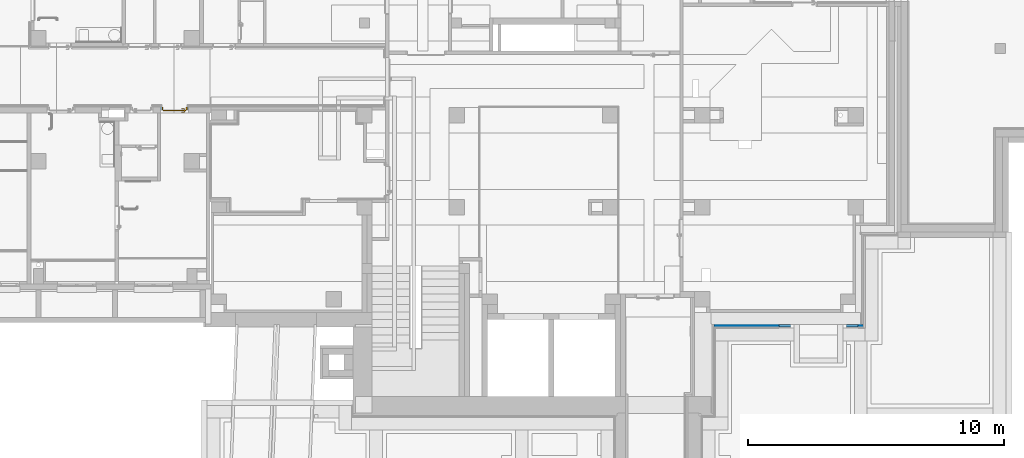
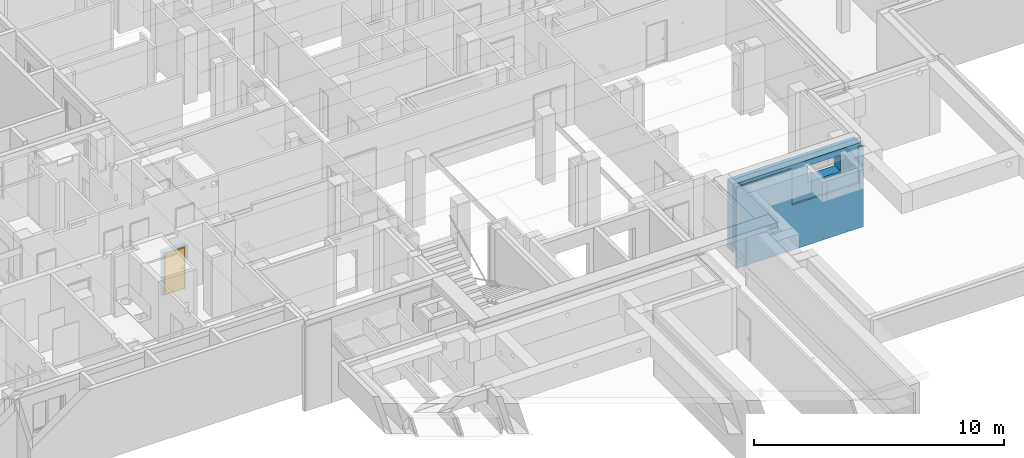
# One storey, part 57 of 84: 1 door, 1 wall, 2 openings, plus 1 element that does not belong to this part.
"""IFC4 building model written with IfcOpenShell, lengths in metres."""

from ifc_helpers import new_model, entity, si_unit, converted_unit, derived_unit, frame, frame_2d, origin, origin_with_axes, place, context, subcontext, project, spatial, polyline, rectangle, outline, extrude, closed_shell, open_shell, faceted_brep, surface_model, source, transform, mapped, material, layer, layer_set, layer_usage, type_object, element, fill, save


model = new_model("IFC4")

# Units and contexts
model_context = context("Model", 3, precision=1e-05, world=origin())
body_context = subcontext(model_context, "Body", "Model", "MODEL_VIEW")
ifc_project = project(units=[si_unit("LENGTHUNIT", "METRE"), si_unit("AREAUNIT", "SQUARE_METRE"), si_unit("VOLUMEUNIT", "CUBIC_METRE"), si_unit("MASSUNIT", "GRAM", prefix="KILO"), converted_unit("PLANEANGLEUNIT", "DEGREE", entity("IfcPlaneAngleMeasure", 0.0174532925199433), si_unit("PLANEANGLEUNIT", "RADIAN"), dimensions=[0, 0, 0, 0, 0, 0, 0]), derived_unit("THERMALTRANSMITTANCEUNIT", [(si_unit("POWERUNIT", "WATT"), 1), (si_unit("THERMODYNAMICTEMPERATUREUNIT", "KELVIN"), -1), (si_unit("LENGTHUNIT", "METRE"), -2)]), derived_unit("VOLUMETRICFLOWRATEUNIT", [(si_unit("LENGTHUNIT", "METRE"), 3), (converted_unit("TIMEUNIT", "hour", entity("IfcTimeMeasure", 3600.0), si_unit("TIMEUNIT", "SECOND"), dimensions=[0, 0, 1, 0, 0, 0, 0]), -1), (si_unit("LENGTHUNIT", "METRE"), -1)])], contexts=[model_context])

# Site, building, storey
site_placement = place(None, origin())
site = spatial("IfcSite", under=ifc_project, at=site_placement, Name="3. ASŘ", CompositionType="ELEMENT")
building_placement = place(site_placement, origin())
building = spatial("IfcBuilding", under=site, at=building_placement, Name="Pavilon C", CompositionType="ELEMENT")
storey_placement = place(building_placement, frame((0.0, 0.0, -3.3)))
storey = spatial("IfcBuildingStorey", under=building, at=storey_placement, Name="Půdorys 1.PP", CompositionType="ELEMENT", Elevation=-3.3)

# Wall, opening
ifc_material_1 = material(Name="ZELEZOBETONOVÁ KCE")
wall_1_placement = place(storey_placement, frame((44.3, -1.075, -1.15)))
wall_1 = element("IfcWall", 1, at=wall_1_placement, inside=storey, material=ifc_material_1, Name="ZELEZOBETONOVÁ KCE", context=body_context, shape_type="Brep", body=[
    faceted_brep([(0.0, 0.555, 0.750000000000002), (5.85, 0.555, 0.750000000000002), (5.85, 0.555, 4.1), (0.0, 0.555, 4.1), (5.85, 0.105, 0.750000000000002), (5.85, 0.105, 1.15), (5.85, 0.105, 4.1), (0.0, 0.105, 0.750000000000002), (0.0, 0.105, 4.1), (5.875, 0.105, 4.1), (5.875, 0.0799999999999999, 4.1), (0.025, 0.0799999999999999, 4.1), (0.025, 0.105, 4.1), (0.025, 0.105, 1.15), (5.875, 0.105, 1.15), (5.875, 0.0799999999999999, 1.15), (5.875, 0.0799999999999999, 3.95), (0.105, 0.0799999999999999, 1.15), (0.025, 0.0799999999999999, 1.15), (5.75000000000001, 0.08, 3.95), (5.75000000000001, 0.0799999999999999, 2.2), (2.65000000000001, 0.0799999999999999, 2.2), (2.65000000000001, 0.08, 3.95), (0.105, 0.08, 3.95), (3.45, 0.0799999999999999, 3.8), (3.45, 0.0799999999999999, 3.0), (4.95, 0.0799999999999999, 3.0), (4.95, 0.0799999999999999, 3.8), (2.65000000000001, 0.0, 2.2), (2.65000000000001, 0.0, 3.95), (5.75000000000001, 0.0, 3.95), (5.75000000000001, 0.0, 2.2), (5.955, 0.0, 0.0), (5.955, 0.08, 0.0), (0.105, 0.08, 0.0), (0.105, 0.0, 0.0), (0.105, 0.0, 3.95), (5.955, 0.0, 3.95), (5.955, 0.08, 3.95), (3.45, 0.0, 3.0), (4.95, 0.0, 3.0), (3.45, 0.0, 3.8), (4.95, 0.0, 3.8)], [[[0, 1, 2, 3]], [[1, 4, 5, 6, 2]], [[4, 1, 0, 7]], [[7, 0, 3, 8]], [[2, 6, 9, 10, 11, 12, 8, 3]], [[13, 5, 4, 7, 8, 12]], [[14, 9, 6, 5]], [[14, 15, 16, 10, 9]], [[17, 15, 14, 5, 13, 18]], [[18, 13, 12, 11]], [[17, 18, 11, 10, 16, 19, 20, 21, 22, 23], [24, 25, 26, 27]], [[22, 21, 28, 29]], [[30, 31, 20, 19]], [[21, 20, 31, 28]], [[32, 33, 34, 35]], [[29, 36, 23, 22]], [[33, 32, 37, 38]], [[35, 34, 17, 23, 36]], [[19, 16, 38, 37, 30]], [[34, 33, 38, 16, 15, 17]], [[37, 32, 35, 36, 29, 28, 31, 30]], [[39, 40, 26, 25]], [[41, 39, 25, 24]], [[27, 26, 40, 42]], [[42, 41, 24, 27]], [[40, 39, 41, 42]]], orient=[[False], [False], [False], [False], [False], [False], [False], [False], [False], [False], [False, False], [False], [False], [False], [False], [False], [False], [False], [False], [False], [False], [False], [False], [False], [False], [False]]),
])
opening_1_placement = place(wall_1_placement, frame((3.45, 0.105, 3.0), z_axis=(0.0, 1.0, 0.0), x_axis=(0.0, 0.0, 1.0)))
element("IfcOpeningElement", 2, at=opening_1_placement, cuts=wall_1, Name="Okenní otvor", ObjectType="Opening", context=body_context, shape_type="SweptSolid", body=[
    extrude(outline(polyline([(0.0, 1.5), (0.8, 1.5), (0.8, 0.0), (0.0, 0.0), (0.0, 1.5)])), origin_with_axes(), (0.0, 0.0, 1.0), 0.45),
    extrude(outline(polyline([(0.0, 1.5), (0.8, 1.5), (0.8, 0.0), (0.0, 0.0), (0.0, 1.5)])), frame((0.0, 0.0, -0.025), z_axis=(0.0, 0.0, 1.0), x_axis=(1.0, 0.0, 0.0)), (0.0, 0.0, 1.0), 0.025),
    extrude(outline(polyline([(0.0, 1.5), (0.8, 1.5), (0.8, 0.0), (0.0, 0.0), (0.0, 1.5)])), frame((0.0, 0.0, -0.105), z_axis=(0.0, 0.0, 1.0), x_axis=(1.0, 0.0, 0.0)), (0.0, 0.0, 1.0), 0.08),
])

# Wall, opening, door
ifc_material_2 = material(Name="YTONG 125")
ifc_layer = layer(ifc_material_2, 0.125)
ifc_layer_set = layer_set([ifc_layer])
ifc_layer_usage = layer_usage(ifc_layer_set, "AXIS2", "POSITIVE", 0.0)
wall_2_placement = place(storey_placement, frame((23.875, 7.525, -0.1), z_axis=(0.0, 0.0, 1.0), x_axis=(-1.0, 0.0, 0.0)))
wall_2 = element("IfcWall", 3, at=wall_2_placement, inside=storey, material=ifc_layer_usage, Name="YTONG 125", context=body_context, shape_type="SweptSolid", body=[
    extrude(rectangle(XDim=1.1, YDim=0.125, at=frame_2d((0.55, 0.0625), x_axis=(1.0, 0.0))), origin_with_axes(), (0.0, 0.0, 1.0), 2.25),
])
opening_2_placement = place(wall_2_placement, frame((0.05, 0.0, 0.0), z_axis=(0.0, 1.0, 0.0), x_axis=(0.0, 0.0, 1.0)))
opening_2 = element("IfcOpeningElement", 4, at=opening_2_placement, cuts=wall_2, Name="Dveřní otvor", ObjectType="Opening", context=body_context, shape_type="SweptSolid", body=[
    extrude(outline(polyline([(0.0, 1.0), (2.12, 1.0), (2.12, 0.0), (0.0, 0.0), (0.0, 1.0)])), origin_with_axes(), (0.0, 0.0, 1.0), 0.125),
])
door_type = type_object("IfcDoorType", Name="I.D017", OperationType="NOTDEFINED", ParameterTakesPrecedence=False, PredefinedType="DOOR")
shared_shape = source(origin_with_axes(), body_context, "Body", "SurfaceModel", [
    surface_model("IfcShellBasedSurfaceModel", [(0.0, 0.0625, 0.0), (1.0, 0.0625, 0.0), (1.0, 0.0625, 0.1), (0.0, 0.0625, 0.1)], [open_shell([[[0, 1, 2, 3]]], orient=[[False]])]),
    surface_model("IfcShellBasedSurfaceModel", [(0.0, 0.125, 2.12), (0.0, 0.125, 0.101), (0.05, 0.125, 0.101), (0.05, 0.125, 2.12), (0.0, 0.0, 0.101), (0.0, 2.41584530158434e-16, 2.12), (0.05, 2.41584530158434e-16, 2.12), (0.05, 0.0, 0.101)], [closed_shell([[[0, 1, 2, 3]], [[4, 5, 6, 7]], [[1, 0, 5, 4]], [[2, 1, 4, 7]], [[3, 2, 7, 6]], [[0, 3, 6, 5]]], orient=[[False], [False], [False], [False], [False], [False]])]),
    surface_model("IfcShellBasedSurfaceModel", [(0.95, 0.125, 2.12), (0.95, 0.125, 0.101), (1.0, 0.125, 0.101), (1.0, 0.125, 2.12), (0.95, 0.0, 0.101), (0.95, 2.41584530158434e-16, 2.12), (1.0, 2.41584530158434e-16, 2.12), (1.0, 0.0, 0.101)], [closed_shell([[[0, 1, 2, 3]], [[4, 5, 6, 7]], [[1, 0, 5, 4]], [[2, 1, 4, 7]], [[3, 2, 7, 6]], [[0, 3, 6, 5]]], orient=[[False], [False], [False], [False], [False], [False]])]),
    surface_model("IfcShellBasedSurfaceModel", [(0.05, 0.125, 2.12), (0.05, 0.125, 2.07), (0.95, 0.125, 2.07), (0.95, 0.125, 2.12), (0.05, 2.41584530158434e-16, 2.07), (0.05, 2.41584530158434e-16, 2.12), (0.95, 2.41584530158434e-16, 2.12), (0.95, 2.41584530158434e-16, 2.07)], [closed_shell([[[0, 1, 2, 3]], [[4, 5, 6, 7]], [[1, 0, 5, 4]], [[2, 1, 4, 7]], [[3, 2, 7, 6]], [[0, 3, 6, 5]]], orient=[[False], [False], [False], [False], [False], [False]])]),
    surface_model("IfcShellBasedSurfaceModel", [(0.05, 0.165, 2.07), (0.05, 0.165, 0.101), (0.95, 0.165, 0.101), (0.95, 0.165, 2.07), (0.05, 0.125, 0.101), (0.05, 0.125, 2.07), (0.95, 0.125, 2.07), (0.95, 0.125, 0.101)], [closed_shell([[[0, 1, 2, 3]], [[4, 5, 6, 7]], [[1, 0, 5, 4]], [[2, 1, 4, 7]], [[3, 2, 7, 6]], [[0, 3, 6, 5]]], orient=[[False], [False], [False], [False], [False], [False]])]),
    surface_model("IfcShellBasedSurfaceModel", [(0.86, 0.125, 1.226), (0.86, 0.125, 1.011), (0.91, 0.125, 1.011), (0.91, 0.125, 1.226), (0.86, 0.115, 1.011), (0.86, 0.115, 1.226), (0.91, 0.115, 1.226), (0.91, 0.115, 1.011)], [closed_shell([[[0, 1, 2, 3]], [[4, 5, 6, 7]], [[1, 0, 5, 4]], [[2, 1, 4, 7]], [[3, 2, 7, 6]], [[0, 3, 6, 5]]], orient=[[False], [False], [False], [False], [False], [False]])]),
    surface_model("IfcShellBasedSurfaceModel", [(0.885, 0.115, 1.161), (0.88, 0.115, 1.15966025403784), (0.876339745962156, 0.115, 1.156), (0.875, 0.115, 1.151), (0.876339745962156, 0.115, 1.146), (0.88, 0.115, 1.14233974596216), (0.885, 0.115, 1.141), (0.89, 0.115, 1.14233974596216), (0.893660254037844, 0.115, 1.146), (0.895, 0.115, 1.151), (0.893660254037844, 0.115, 1.156), (0.89, 0.115, 1.15966025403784), (0.89, 0.0700000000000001, 1.15966025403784), (0.885, 0.0750000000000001, 1.161), (0.893660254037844, 0.0663397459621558, 1.156), (0.895, 0.0650000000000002, 1.151), (0.893660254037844, 0.0663397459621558, 1.146), (0.89, 0.0700000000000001, 1.14233974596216), (0.885, 0.0750000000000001, 1.141), (0.88, 0.0800000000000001, 1.14233974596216), (0.876339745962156, 0.0836602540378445, 1.146), (0.875, 0.0850000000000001, 1.151), (0.876339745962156, 0.0836602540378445, 1.156), (0.88, 0.0800000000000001, 1.15966025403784), (0.77, 0.0700000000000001, 1.15966025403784), (0.77, 0.0750000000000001, 1.161), (0.77, 0.0663397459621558, 1.156), (0.77, 0.0650000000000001, 1.151), (0.77, 0.0663397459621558, 1.146), (0.77, 0.0700000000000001, 1.14233974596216), (0.77, 0.0750000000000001, 1.141), (0.77, 0.0800000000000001, 1.14233974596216), (0.77, 0.0836602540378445, 1.146), (0.77, 0.0850000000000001, 1.151), (0.77, 0.0836602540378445, 1.156), (0.77, 0.0800000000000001, 1.15966025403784)], [open_shell([[[0, 1, 2, 3, 4, 5, 6, 7, 8, 9, 10, 11]], [[0, 11, 12, 13]], [[11, 10, 14, 12]], [[10, 9, 15, 14]], [[9, 8, 16, 15]], [[8, 7, 17, 16]], [[7, 6, 18, 17]], [[6, 5, 19, 18]], [[5, 4, 20, 19]], [[4, 3, 21, 20]], [[3, 2, 22, 21]], [[2, 1, 23, 22]], [[1, 0, 13, 23]], [[13, 12, 24, 25]], [[12, 14, 26, 24]], [[14, 15, 27, 26]], [[15, 16, 28, 27]], [[16, 17, 29, 28]], [[17, 18, 30, 29]], [[18, 19, 31, 30]], [[19, 20, 32, 31]], [[20, 21, 33, 32]], [[21, 22, 34, 33]], [[22, 23, 35, 34]], [[23, 13, 25, 35]]], orient=[[False], [False], [False], [False], [False], [False], [False], [False], [False], [False], [False], [False], [False], [False], [False], [False], [False], [False], [False], [False], [False], [False], [False], [False], [False]])]),
    surface_model("IfcShellBasedSurfaceModel", [(0.86, 0.165, 1.226), (0.91, 0.165, 1.226), (0.91, 0.165, 1.011), (0.86, 0.165, 1.011), (0.86, 0.175, 1.011), (0.91, 0.175, 1.011), (0.91, 0.175, 1.226), (0.86, 0.175, 1.226)], [closed_shell([[[0, 1, 2, 3]], [[4, 5, 6, 7]], [[3, 4, 7, 0]], [[2, 5, 4, 3]], [[1, 6, 5, 2]], [[0, 7, 6, 1]]], orient=[[False], [False], [False], [False], [False], [False]])]),
    surface_model("IfcShellBasedSurfaceModel", [(0.885, 0.175, 1.161), (0.89, 0.175, 1.15966025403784), (0.893660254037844, 0.175, 1.156), (0.895, 0.175, 1.151), (0.893660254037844, 0.175, 1.146), (0.89, 0.175, 1.14233974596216), (0.885, 0.175, 1.141), (0.88, 0.175, 1.14233974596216), (0.876339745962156, 0.175, 1.146), (0.875, 0.175, 1.151), (0.876339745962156, 0.175, 1.156), (0.88, 0.175, 1.15966025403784), (0.885, 0.215, 1.161), (0.89, 0.22, 1.15966025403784), (0.893660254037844, 0.223660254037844, 1.156), (0.895, 0.225, 1.151), (0.893660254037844, 0.223660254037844, 1.146), (0.89, 0.22, 1.14233974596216), (0.885, 0.215, 1.141), (0.88, 0.21, 1.14233974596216), (0.876339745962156, 0.206339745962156, 1.146), (0.875, 0.205, 1.151), (0.876339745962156, 0.206339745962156, 1.156), (0.88, 0.21, 1.15966025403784), (0.77, 0.215, 1.161), (0.77, 0.22, 1.15966025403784), (0.77, 0.223660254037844, 1.156), (0.77, 0.225, 1.151), (0.77, 0.223660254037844, 1.146), (0.77, 0.22, 1.14233974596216), (0.77, 0.215, 1.141), (0.77, 0.21, 1.14233974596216), (0.77, 0.206339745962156, 1.146), (0.77, 0.205, 1.151), (0.77, 0.206339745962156, 1.156), (0.77, 0.21, 1.15966025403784)], [open_shell([[[0, 1, 2, 3, 4, 5, 6, 7, 8, 9, 10, 11]], [[0, 12, 13, 1]], [[1, 13, 14, 2]], [[2, 14, 15, 3]], [[3, 15, 16, 4]], [[4, 16, 17, 5]], [[5, 17, 18, 6]], [[6, 18, 19, 7]], [[7, 19, 20, 8]], [[8, 20, 21, 9]], [[9, 21, 22, 10]], [[10, 22, 23, 11]], [[11, 23, 12, 0]], [[12, 24, 25, 13]], [[13, 25, 26, 14]], [[14, 26, 27, 15]], [[15, 27, 28, 16]], [[16, 28, 29, 17]], [[17, 29, 30, 18]], [[18, 30, 31, 19]], [[19, 31, 32, 20]], [[20, 32, 33, 21]], [[21, 33, 34, 22]], [[22, 34, 35, 23]], [[23, 35, 24, 12]]], orient=[[False], [False], [False], [False], [False], [False], [False], [False], [False], [False], [False], [False], [False], [False], [False], [False], [False], [False], [False], [False], [False], [False], [False], [False], [False]])]),
])
door_placement = place(opening_2_placement, frame((0.0, 1.0, 0.0), z_axis=(1.0, 0.0, 0.0), x_axis=(0.0, -1.0, 1.22464679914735e-16)))
door = element("IfcDoor", 5, at=door_placement, inside=storey, type_object=door_type, Name="I.D017", OverallHeight=2.12, OverallWidth=1.0, context=body_context, shape_type="MappedRepresentation", body=[
    mapped(shared_shape, transform((0.0, 0.0, 0.0), x_axis=(1.0, 0.0, 0.0), y_axis=(0.0, -1.0, 0.0), z_axis=(0.0, 0.0, 1.0), scale=1.0)),
])
fill(opening_2, door)

save(model, "model.ifc")
